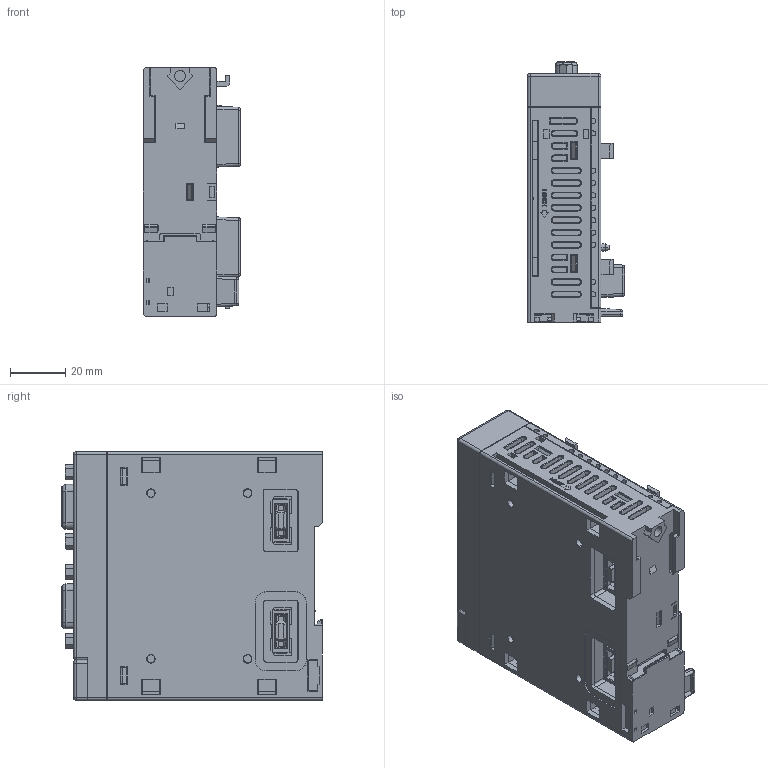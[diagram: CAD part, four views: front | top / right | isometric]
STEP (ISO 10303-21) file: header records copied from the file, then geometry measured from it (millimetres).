
FILE_DESCRIPTION((''),'2;1');
FILE_NAME('XCPU-CM22_ASM','2022-09-18T22:55:37',('Jacky Chang'),(''),'CREO PARAMETRIC BY PTC INC, 2021284','CREO PARAMETRIC BY PTC INC, 2021284','');
FILE_SCHEMA(('CONFIG_CONTROL_DESIGN','SHAPE_APPEARANCE_LAYERS_GROUPS'));
Products named in the file (2): XCPU-CM22-UP-COVER; XCPU-CM22_ASM
Assembly tree (1 placements, depth 2):
  XCPU-CM22_ASM
    XCPU-CM22-UP-COVER
Bounding box: 35.2 x 94.3 x 90.3 mm (x, y, z)
Volume: 202347.8 mm3; surface area: 47790 mm2
Topology: 2 solids, 13 shells, 2691 faces, 7101 edges, 4473 vertices
Faces by surface type: plane 1696, cylinder 576, cone 145, torus 102, bspline 70, extrusion 60, sphere 42
Entity records: 120454 total; most frequent: CARTESIAN_POINT 25856, ORIENTED_EDGE 14138, DIRECTION 12641, PRESENTATION_STYLE_ASSIGNMENT 8175, STYLED_ITEM 7071, CURVE_STYLE 7069, EDGE_CURVE 7069, VECTOR 5327
